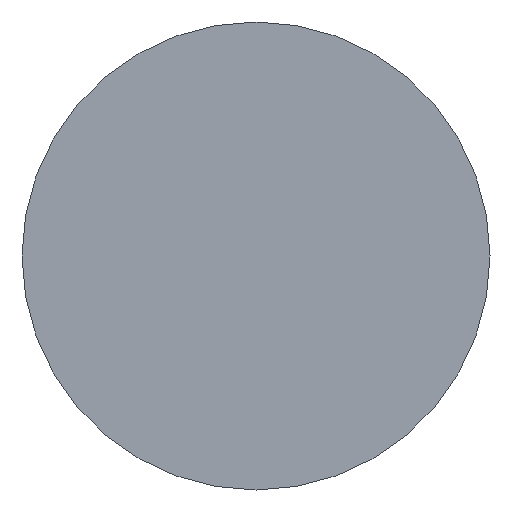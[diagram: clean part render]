
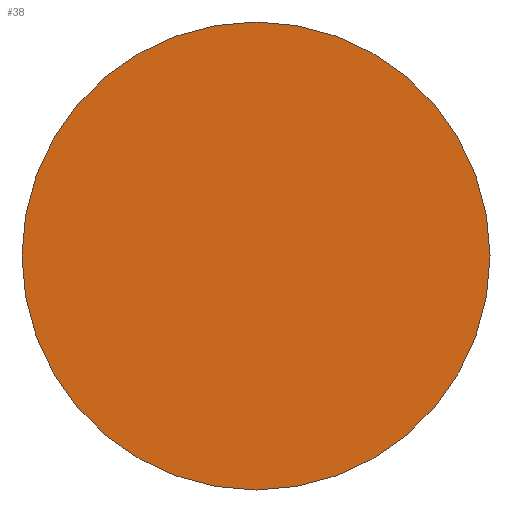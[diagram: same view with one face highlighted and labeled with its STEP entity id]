
A CAD part, left-side view. The second image highlights one B-rep face of the part: STEP entity #38.
In plain terms, the highlighted planar face has unit normal (-1, 0, 0).
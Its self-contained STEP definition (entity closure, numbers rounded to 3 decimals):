
#3 = ORIENTED_EDGE ( 'NONE', *, *, #116, .F. ) ;
#6 = CARTESIAN_POINT ( 'NONE',  ( 0., 0., 0. ) ) ;
#19 = ORIENTED_EDGE ( 'NONE', *, *, #29, .F. ) ;
#23 = FACE_OUTER_BOUND ( 'NONE', #150, .T. ) ;
#24 = DIRECTION ( 'NONE',  ( 0., 1., 0. ) ) ;
#29 = EDGE_CURVE ( 'NONE', #140, #186, #43, .T. ) ;
#38 = ADVANCED_FACE ( 'NONE', ( #23 ), #84, .T. ) ;
#43 = CIRCLE ( 'NONE', #51, 6. ) ;
#51 = AXIS2_PLACEMENT_3D ( 'NONE', #6, #107, #167 ) ;
#65 = CIRCLE ( 'NONE', #70, 6. ) ;
#70 = AXIS2_PLACEMENT_3D ( 'NONE', #81, #86, #24 ) ;
#81 = CARTESIAN_POINT ( 'NONE',  ( 0., 0., 0. ) ) ;
#84 = PLANE ( 'NONE',  #128 ) ;
#86 = DIRECTION ( 'NONE',  ( 1., 0., 0. ) ) ;
#107 = DIRECTION ( 'NONE',  ( 1., 0., 0. ) ) ;
#110 = DIRECTION ( 'NONE',  ( -1., 0., 0. ) ) ;
#112 = CARTESIAN_POINT ( 'NONE',  ( 0., -6., 0. ) ) ;
#116 = EDGE_CURVE ( 'NONE', #186, #140, #65, .T. ) ;
#128 = AXIS2_PLACEMENT_3D ( 'NONE', #208, #110, #222 ) ;
#140 = VERTEX_POINT ( 'NONE', #229 ) ;
#150 = EDGE_LOOP ( 'NONE', ( #19, #3 ) ) ;
#167 = DIRECTION ( 'NONE',  ( 0., 1., 0. ) ) ;
#186 = VERTEX_POINT ( 'NONE', #112 ) ;
#208 = CARTESIAN_POINT ( 'NONE',  ( 0., 0., 0. ) ) ;
#222 = DIRECTION ( 'NONE',  ( 0., -1., 0. ) ) ;
#229 = CARTESIAN_POINT ( 'NONE',  ( 0., 6., 0. ) ) ;
